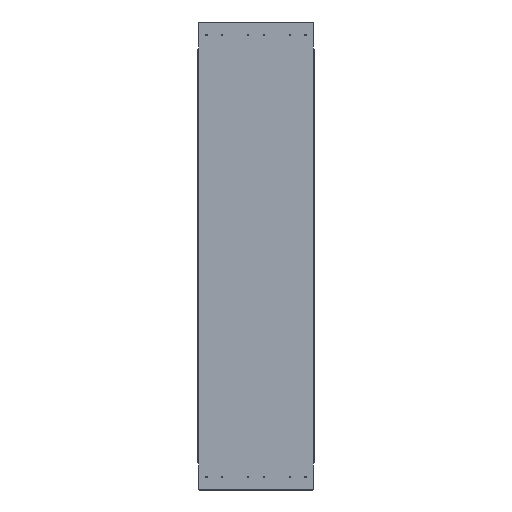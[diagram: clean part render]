
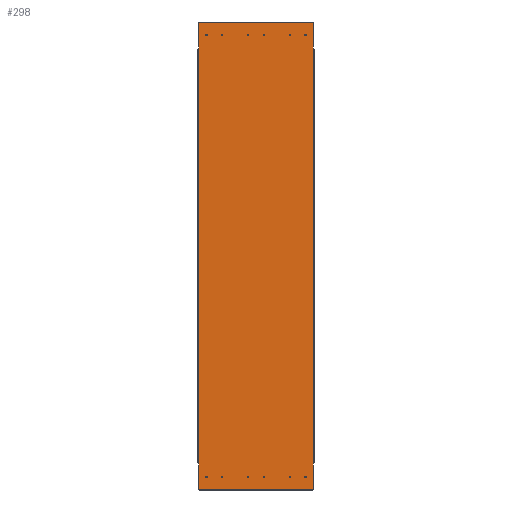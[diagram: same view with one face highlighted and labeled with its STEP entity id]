
A CAD part, top view. The second image highlights one B-rep face of the part: STEP entity #298.
In plain terms, the highlighted planar face has unit normal (0, 0, 1).
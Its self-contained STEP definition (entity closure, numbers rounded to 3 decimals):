
#59=CARTESIAN_POINT('',(1580.,193.5,427.5));
#60=DIRECTION('',(-0.,-0.,1.));
#61=DIRECTION('',(0.,1.,0.));
#62=AXIS2_PLACEMENT_3D('',#59,#60,#61);
#63=PLANE('',#62);
#64=CARTESIAN_POINT('',(1590.,230.9,427.5));
#65=VERTEX_POINT('',#64);
#66=CARTESIAN_POINT('',(1590.,233.5,427.5));
#67=DIRECTION('',(-0.,-0.,1.));
#68=DIRECTION('',(0.,-1.,-0.));
#69=AXIS2_PLACEMENT_3D('',#66,#67,#68);
#70=CIRCLE('',#69,2.6);
#71=EDGE_CURVE('',#65,#65,#70,.T.);
#72=ORIENTED_EDGE('',*,*,#71,.F.);
#73=EDGE_LOOP('',(#72));
#74=FACE_BOUND('',#73,.T.);
#75=CARTESIAN_POINT('',(1530.,230.9,427.5));
#76=VERTEX_POINT('',#75);
#77=CARTESIAN_POINT('',(1530.,233.5,427.5));
#78=DIRECTION('',(-0.,-0.,1.));
#79=DIRECTION('',(0.,-1.,-0.));
#80=AXIS2_PLACEMENT_3D('',#77,#78,#79);
#81=CIRCLE('',#80,2.6);
#82=EDGE_CURVE('',#76,#76,#81,.T.);
#83=ORIENTED_EDGE('',*,*,#82,.F.);
#84=EDGE_LOOP('',(#83));
#85=FACE_BOUND('',#84,.T.);
#86=CARTESIAN_POINT('',(1430.,230.9,427.5));
#87=VERTEX_POINT('',#86);
#88=CARTESIAN_POINT('',(1430.,233.5,427.5));
#89=DIRECTION('',(-0.,-0.,1.));
#90=DIRECTION('',(0.,-1.,-0.));
#91=AXIS2_PLACEMENT_3D('',#88,#89,#90);
#92=CIRCLE('',#91,2.6);
#93=EDGE_CURVE('',#87,#87,#92,.T.);
#94=ORIENTED_EDGE('',*,*,#93,.F.);
#95=EDGE_LOOP('',(#94));
#96=FACE_BOUND('',#95,.T.);
#97=CARTESIAN_POINT('',(1370.,230.9,427.5));
#98=VERTEX_POINT('',#97);
#99=CARTESIAN_POINT('',(1370.,233.5,427.5));
#100=DIRECTION('',(-0.,-0.,1.));
#101=DIRECTION('',(0.,-1.,-0.));
#102=AXIS2_PLACEMENT_3D('',#99,#100,#101);
#103=CIRCLE('',#102,2.6);
#104=EDGE_CURVE('',#98,#98,#103,.T.);
#105=ORIENTED_EDGE('',*,*,#104,.F.);
#106=EDGE_LOOP('',(#105));
#107=FACE_BOUND('',#106,.T.);
#108=CARTESIAN_POINT('',(1270.,230.9,427.5));
#109=VERTEX_POINT('',#108);
#110=CARTESIAN_POINT('',(1270.,233.5,427.5));
#111=DIRECTION('',(-0.,-0.,1.));
#112=DIRECTION('',(0.,-1.,-0.));
#113=AXIS2_PLACEMENT_3D('',#110,#111,#112);
#114=CIRCLE('',#113,2.6);
#115=EDGE_CURVE('',#109,#109,#114,.T.);
#116=ORIENTED_EDGE('',*,*,#115,.F.);
#117=EDGE_LOOP('',(#116));
#118=FACE_BOUND('',#117,.T.);
#119=CARTESIAN_POINT('',(1210.,230.9,427.5));
#120=VERTEX_POINT('',#119);
#121=CARTESIAN_POINT('',(1210.,233.5,427.5));
#122=DIRECTION('',(-0.,-0.,1.));
#123=DIRECTION('',(0.,-1.,-0.));
#124=AXIS2_PLACEMENT_3D('',#121,#122,#123);
#125=CIRCLE('',#124,2.6);
#126=EDGE_CURVE('',#120,#120,#125,.T.);
#127=ORIENTED_EDGE('',*,*,#126,.F.);
#128=EDGE_LOOP('',(#127));
#129=FACE_BOUND('',#128,.T.);
#130=CARTESIAN_POINT('',(1270.,1930.9,427.5));
#131=VERTEX_POINT('',#130);
#132=CARTESIAN_POINT('',(1270.,1933.5,427.5));
#133=DIRECTION('',(-0.,-0.,1.));
#134=DIRECTION('',(0.,-1.,-0.));
#135=AXIS2_PLACEMENT_3D('',#132,#133,#134);
#136=CIRCLE('',#135,2.6);
#137=EDGE_CURVE('',#131,#131,#136,.T.);
#138=ORIENTED_EDGE('',*,*,#137,.F.);
#139=EDGE_LOOP('',(#138));
#140=FACE_BOUND('',#139,.T.);
#141=CARTESIAN_POINT('',(1210.,1930.9,427.5));
#142=VERTEX_POINT('',#141);
#143=CARTESIAN_POINT('',(1210.,1933.5,427.5));
#144=DIRECTION('',(-0.,-0.,1.));
#145=DIRECTION('',(0.,-1.,-0.));
#146=AXIS2_PLACEMENT_3D('',#143,#144,#145);
#147=CIRCLE('',#146,2.6);
#148=EDGE_CURVE('',#142,#142,#147,.T.);
#149=ORIENTED_EDGE('',*,*,#148,.F.);
#150=EDGE_LOOP('',(#149));
#151=FACE_BOUND('',#150,.T.);
#152=CARTESIAN_POINT('',(1590.,1930.9,427.5));
#153=VERTEX_POINT('',#152);
#154=CARTESIAN_POINT('',(1590.,1933.5,427.5));
#155=DIRECTION('',(-0.,-0.,1.));
#156=DIRECTION('',(0.,-1.,-0.));
#157=AXIS2_PLACEMENT_3D('',#154,#155,#156);
#158=CIRCLE('',#157,2.6);
#159=EDGE_CURVE('',#153,#153,#158,.T.);
#160=ORIENTED_EDGE('',*,*,#159,.F.);
#161=EDGE_LOOP('',(#160));
#162=FACE_BOUND('',#161,.T.);
#163=CARTESIAN_POINT('',(1530.,1930.9,427.5));
#164=VERTEX_POINT('',#163);
#165=CARTESIAN_POINT('',(1530.,1933.5,427.5));
#166=DIRECTION('',(-0.,-0.,1.));
#167=DIRECTION('',(0.,-1.,-0.));
#168=AXIS2_PLACEMENT_3D('',#165,#166,#167);
#169=CIRCLE('',#168,2.6);
#170=EDGE_CURVE('',#164,#164,#169,.T.);
#171=ORIENTED_EDGE('',*,*,#170,.F.);
#172=EDGE_LOOP('',(#171));
#173=FACE_BOUND('',#172,.T.);
#174=CARTESIAN_POINT('',(1370.,1930.9,427.5));
#175=VERTEX_POINT('',#174);
#176=CARTESIAN_POINT('',(1370.,1933.5,427.5));
#177=DIRECTION('',(-0.,-0.,1.));
#178=DIRECTION('',(0.,-1.,-0.));
#179=AXIS2_PLACEMENT_3D('',#176,#177,#178);
#180=CIRCLE('',#179,2.6);
#181=EDGE_CURVE('',#175,#175,#180,.T.);
#182=ORIENTED_EDGE('',*,*,#181,.F.);
#183=EDGE_LOOP('',(#182));
#184=FACE_BOUND('',#183,.T.);
#185=CARTESIAN_POINT('',(1430.,1930.9,427.5));
#186=VERTEX_POINT('',#185);
#187=CARTESIAN_POINT('',(1430.,1933.5,427.5));
#188=DIRECTION('',(-0.,-0.,1.));
#189=DIRECTION('',(0.,-1.,-0.));
#190=AXIS2_PLACEMENT_3D('',#187,#188,#189);
#191=CIRCLE('',#190,2.6);
#192=EDGE_CURVE('',#186,#186,#191,.T.);
#193=ORIENTED_EDGE('',*,*,#192,.F.);
#194=EDGE_LOOP('',(#193));
#195=FACE_BOUND('',#194,.T.);
#196=CARTESIAN_POINT('',(1180.,1879.5,427.5));
#197=VERTEX_POINT('',#196);
#198=CARTESIAN_POINT('',(1180.,1982.5,427.5));
#199=VERTEX_POINT('',#198);
#200=CARTESIAN_POINT('',(1180.,1879.5,427.5));
#201=DIRECTION('',(0.,1.,0.));
#202=VECTOR('',#201,103.);
#203=LINE('',#200,#202);
#204=EDGE_CURVE('',#197,#199,#203,.T.);
#205=ORIENTED_EDGE('',*,*,#204,.F.);
#206=CARTESIAN_POINT('',(1180.,287.5,427.5));
#207=VERTEX_POINT('',#206);
#208=CARTESIAN_POINT('',(1180.,1879.5,427.5));
#209=DIRECTION('',(-0.,-1.,-0.));
#210=VECTOR('',#209,1592.);
#211=LINE('',#208,#210);
#212=EDGE_CURVE('',#197,#207,#211,.T.);
#213=ORIENTED_EDGE('',*,*,#212,.T.);
#214=CARTESIAN_POINT('',(1180.,184.5,427.5));
#215=VERTEX_POINT('',#214);
#216=CARTESIAN_POINT('',(1180.,287.5,427.5));
#217=DIRECTION('',(0.,-1.,-0.));
#218=VECTOR('',#217,103.);
#219=LINE('',#216,#218);
#220=EDGE_CURVE('',#207,#215,#219,.T.);
#221=ORIENTED_EDGE('',*,*,#220,.T.);
#222=CARTESIAN_POINT('',(1181.,183.5,427.5));
#223=VERTEX_POINT('',#222);
#224=CARTESIAN_POINT('',(1181.,184.5,427.5));
#225=DIRECTION('',(-0.,-0.,1.));
#226=DIRECTION('',(0.,-1.,-0.));
#227=AXIS2_PLACEMENT_3D('',#224,#225,#226);
#228=CIRCLE('',#227,1.);
#229=EDGE_CURVE('',#215,#223,#228,.T.);
#230=ORIENTED_EDGE('',*,*,#229,.T.);
#231=CARTESIAN_POINT('',(1619.,183.5,427.5));
#232=VERTEX_POINT('',#231);
#233=CARTESIAN_POINT('',(1619.,183.5,427.5));
#234=DIRECTION('',(-1.,0.,0.));
#235=VECTOR('',#234,438.);
#236=LINE('',#233,#235);
#237=EDGE_CURVE('',#232,#223,#236,.T.);
#238=ORIENTED_EDGE('',*,*,#237,.F.);
#239=CARTESIAN_POINT('',(1620.,184.5,427.5));
#240=VERTEX_POINT('',#239);
#241=CARTESIAN_POINT('',(1619.,184.5,427.5));
#242=DIRECTION('',(-0.,-0.,1.));
#243=DIRECTION('',(0.,-1.,-0.));
#244=AXIS2_PLACEMENT_3D('',#241,#242,#243);
#245=CIRCLE('',#244,1.);
#246=EDGE_CURVE('',#232,#240,#245,.T.);
#247=ORIENTED_EDGE('',*,*,#246,.T.);
#248=CARTESIAN_POINT('',(1620.,287.5,427.5));
#249=VERTEX_POINT('',#248);
#250=CARTESIAN_POINT('',(1620.,287.5,427.5));
#251=DIRECTION('',(0.,-1.,-0.));
#252=VECTOR('',#251,103.);
#253=LINE('',#250,#252);
#254=EDGE_CURVE('',#249,#240,#253,.T.);
#255=ORIENTED_EDGE('',*,*,#254,.F.);
#256=CARTESIAN_POINT('',(1620.,1879.5,427.5));
#257=VERTEX_POINT('',#256);
#258=CARTESIAN_POINT('',(1620.,287.5,427.5));
#259=DIRECTION('',(0.,1.,0.));
#260=VECTOR('',#259,1592.);
#261=LINE('',#258,#260);
#262=EDGE_CURVE('',#249,#257,#261,.T.);
#263=ORIENTED_EDGE('',*,*,#262,.T.);
#264=CARTESIAN_POINT('',(1620.,1982.5,427.5));
#265=VERTEX_POINT('',#264);
#266=CARTESIAN_POINT('',(1620.,1879.5,427.5));
#267=DIRECTION('',(0.,1.,0.));
#268=VECTOR('',#267,103.);
#269=LINE('',#266,#268);
#270=EDGE_CURVE('',#257,#265,#269,.T.);
#271=ORIENTED_EDGE('',*,*,#270,.T.);
#272=CARTESIAN_POINT('',(1619.,1983.5,427.5));
#273=VERTEX_POINT('',#272);
#274=CARTESIAN_POINT('',(1619.,1982.5,427.5));
#275=DIRECTION('',(-0.,-0.,1.));
#276=DIRECTION('',(0.,-1.,-0.));
#277=AXIS2_PLACEMENT_3D('',#274,#275,#276);
#278=CIRCLE('',#277,1.);
#279=EDGE_CURVE('',#265,#273,#278,.T.);
#280=ORIENTED_EDGE('',*,*,#279,.T.);
#281=CARTESIAN_POINT('',(1181.,1983.5,427.5));
#282=VERTEX_POINT('',#281);
#283=CARTESIAN_POINT('',(1619.,1983.5,427.5));
#284=DIRECTION('',(-1.,0.,0.));
#285=VECTOR('',#284,438.);
#286=LINE('',#283,#285);
#287=EDGE_CURVE('',#273,#282,#286,.T.);
#288=ORIENTED_EDGE('',*,*,#287,.T.);
#289=CARTESIAN_POINT('',(1181.,1982.5,427.5));
#290=DIRECTION('',(-0.,-0.,1.));
#291=DIRECTION('',(0.,-1.,-0.));
#292=AXIS2_PLACEMENT_3D('',#289,#290,#291);
#293=CIRCLE('',#292,1.);
#294=EDGE_CURVE('',#282,#199,#293,.T.);
#295=ORIENTED_EDGE('',*,*,#294,.T.);
#296=EDGE_LOOP('',(#205,#213,#221,#230,#238,#247,#255,#263,#271,#280,#288,#295));
#297=FACE_BOUND('',#296,.T.);
#298=ADVANCED_FACE('',(#74,#85,#96,#107,#118,#129,#140,#151,#162,#173,#184,#195,#297),#63,.T.);
